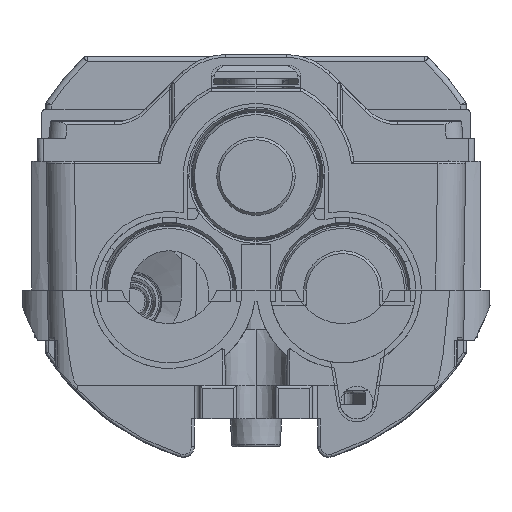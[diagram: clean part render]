
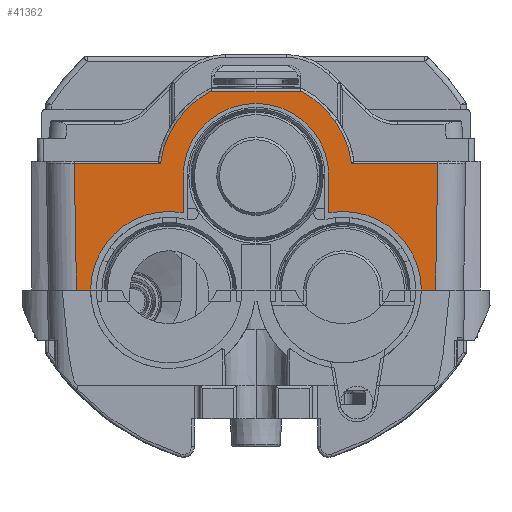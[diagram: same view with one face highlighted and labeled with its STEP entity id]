
A CAD part, left-side view. The second image highlights one B-rep face of the part: STEP entity #41362.
In plain terms, the highlighted planar face has unit normal (-1, 0, 0).
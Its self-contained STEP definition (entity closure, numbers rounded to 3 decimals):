
#605 = CARTESIAN_POINT ( 'NONE',  ( -325.383, 13., 54.3 ) ) ;
#1370 = VECTOR ( 'NONE', #40199, 1000. ) ;
#1553 = VECTOR ( 'NONE', #31791, 1000. ) ;
#1719 = CARTESIAN_POINT ( 'NONE',  ( -325.383, -32.74, 74.782 ) ) ;
#2116 = EDGE_CURVE ( 'NONE', #44450, #36620, #39580, .T. ) ;
#2343 = DIRECTION ( 'NONE',  ( 1., 0., 0. ) ) ;
#2430 = VECTOR ( 'NONE', #20249, 1000. ) ;
#3101 = CARTESIAN_POINT ( 'NONE',  ( -325.383, 37.029, 56.5 ) ) ;
#3967 = DIRECTION ( 'NONE',  ( 0., 1., 0. ) ) ;
#4725 = FACE_OUTER_BOUND ( 'NONE', #35233, .T. ) ;
#4774 = CARTESIAN_POINT ( 'NONE',  ( -325.383, -17.059, 56.5 ) ) ;
#6695 = VERTEX_POINT ( 'NONE', #23852 ) ;
#7025 = EDGE_CURVE ( 'NONE', #39465, #33442, #43488, .T. ) ;
#7088 = CIRCLE ( 'NONE', #35055, 13. ) ;
#7342 = DIRECTION ( 'NONE',  ( -1., 0., 0. ) ) ;
#7726 = LINE ( 'NONE', #9119, #16372 ) ;
#8094 = CARTESIAN_POINT ( 'NONE',  ( -325.383, -29.5, 34. ) ) ;
#8181 = LINE ( 'NONE', #27456, #40161 ) ;
#8544 = EDGE_CURVE ( 'NONE', #33442, #45098, #44655, .T. ) ;
#9119 = CARTESIAN_POINT ( 'NONE',  ( -325.383, 13., 54.3 ) ) ;
#10254 = CARTESIAN_POINT ( 'NONE',  ( -325.383, 15.5, 34. ) ) ;
#10402 = EDGE_CURVE ( 'NONE', #30094, #44450, #16649, .T. ) ;
#10726 = ORIENTED_EDGE ( 'NONE', *, *, #41121, .T. ) ;
#10725 = DIRECTION ( 'NONE',  ( 0., -0.017, -1. ) ) ;
#11138 = CARTESIAN_POINT ( 'NONE',  ( -325.383, 37.029, 34. ) ) ;
#11245 = VERTEX_POINT ( 'NONE', #28863 ) ;
#11400 = AXIS2_PLACEMENT_3D ( 'NONE', #10254, #39360, #14463 ) ;
#13365 = DIRECTION ( 'NONE',  ( 0., 0., -1. ) ) ;
#14138 = ORIENTED_EDGE ( 'NONE', *, *, #30680, .T. ) ;
#14350 = CARTESIAN_POINT ( 'NONE',  ( -325.383, -13., 47.775 ) ) ;
#14463 = DIRECTION ( 'NONE',  ( 0., -1., 0. ) ) ;
#15275 = AXIS2_PLACEMENT_3D ( 'NONE', #17674, #46573, #21896 ) ;
#15301 = VECTOR ( 'NONE', #26987, 1000. ) ;
#16117 = CARTESIAN_POINT ( 'NONE',  ( -325.383, 37.029, 69.5 ) ) ;
#16372 = VECTOR ( 'NONE', #13365, 1000. ) ;
#16649 = LINE ( 'NONE', #1719, #15301 ) ;
#16695 = EDGE_CURVE ( 'NONE', #17748, #27536, #41033, .T. ) ;
#16746 = EDGE_CURVE ( 'NONE', #21973, #52673, #7726, .T. ) ;
#17201 = CARTESIAN_POINT ( 'NONE',  ( -325.383, -32.421, 56.5 ) ) ;
#17283 = EDGE_CURVE ( 'NONE', #42134, #17748, #45435, .T. ) ;
#17549 = EDGE_CURVE ( 'NONE', #11245, #6695, #46070, .T. ) ;
#17674 = CARTESIAN_POINT ( 'NONE',  ( -325.383, 0., 54.3 ) ) ;
#17748 = VERTEX_POINT ( 'NONE', #14350 ) ;
#18999 = EDGE_CURVE ( 'NONE', #28190, #11245, #8181, .T. ) ;
#19035 = VECTOR ( 'NONE', #46197, 1000. ) ;
#19385 = CARTESIAN_POINT ( 'NONE',  ( -325.383, 37.029, 56.5 ) ) ;
#19828 = DIRECTION ( 'NONE',  ( -1., 0., 0. ) ) ;
#20249 = DIRECTION ( 'NONE',  ( 0., 1., 0. ) ) ;
#20924 = CARTESIAN_POINT ( 'NONE',  ( -325.383, 0., 54.3 ) ) ;
#21380 = ORIENTED_EDGE ( 'NONE', *, *, #40510, .T. ) ;
#21896 = DIRECTION ( 'NONE',  ( 0., 0., -1. ) ) ;
#21973 = VERTEX_POINT ( 'NONE', #605 ) ;
#23352 = CIRCLE ( 'NONE', #24661, 17.2 ) ;
#23852 = CARTESIAN_POINT ( 'NONE',  ( -325.383, 29.5, 34. ) ) ;
#23930 = CARTESIAN_POINT ( 'NONE',  ( -325.383, 13., 47.775 ) ) ;
#24645 = AXIS2_PLACEMENT_3D ( 'NONE', #32404, #7342, #36609 ) ;
#24661 = AXIS2_PLACEMENT_3D ( 'NONE', #44521, #19828, #48706 ) ;
#25039 = DIRECTION ( 'NONE',  ( 0., -1., 0. ) ) ;
#26987 = DIRECTION ( 'NONE',  ( 0., -0.017, 1. ) ) ;
#27456 = CARTESIAN_POINT ( 'NONE',  ( -325.383, 32.762, 76.074 ) ) ;
#27536 = VERTEX_POINT ( 'NONE', #36917 ) ;
#27558 = ORIENTED_EDGE ( 'NONE', *, *, #17283, .F. ) ;
#27569 = PLANE ( 'NONE',  #33670 ) ;
#27645 = CARTESIAN_POINT ( 'NONE',  ( -325.383, 37.029, 34. ) ) ;
#27962 = CIRCLE ( 'NONE', #11400, 14. ) ;
#28190 = VERTEX_POINT ( 'NONE', #51528 ) ;
#28374 = CARTESIAN_POINT ( 'NONE',  ( -325.383, -32.028, 34. ) ) ;
#28519 = VECTOR ( 'NONE', #3967, 1000. ) ;
#28851 = ORIENTED_EDGE ( 'NONE', *, *, #51730, .F. ) ;
#28863 = CARTESIAN_POINT ( 'NONE',  ( -325.383, 32.028, 34. ) ) ;
#30094 = VERTEX_POINT ( 'NONE', #28374 ) ;
#30395 = ORIENTED_EDGE ( 'NONE', *, *, #17549, .T. ) ;
#30680 = EDGE_CURVE ( 'NONE', #45098, #28190, #35944, .T. ) ;
#31050 = CARTESIAN_POINT ( 'NONE',  ( -325.383, 8.05, 69.5 ) ) ;
#31451 = ORIENTED_EDGE ( 'NONE', *, *, #18999, .T. ) ;
#31666 = ORIENTED_EDGE ( 'NONE', *, *, #50804, .F. ) ;
#31721 = DIRECTION ( 'NONE',  ( 0., 0., -1. ) ) ;
#31791 = DIRECTION ( 'NONE',  ( 0., -1., 0. ) ) ;
#32358 = ORIENTED_EDGE ( 'NONE', *, *, #2116, .T. ) ;
#32404 = CARTESIAN_POINT ( 'NONE',  ( -325.383, -15.5, 34. ) ) ;
#32480 = VECTOR ( 'NONE', #53564, 1000. ) ;
#33442 = VERTEX_POINT ( 'NONE', #31050 ) ;
#33670 = AXIS2_PLACEMENT_3D ( 'NONE', #48010, #2343, #31721 ) ;
#35055 = AXIS2_PLACEMENT_3D ( 'NONE', #20924, #49808, #25039 ) ;
#35233 = EDGE_LOOP ( 'NONE', ( #40070, #14138, #31451, #30395, #28851, #45394, #31666, #37775, #27558, #10726, #47840, #32358, #21380, #45601 ) ) ;
#35944 = LINE ( 'NONE', #3101, #2430 ) ;
#36609 = DIRECTION ( 'NONE',  ( 0., -1., 0. ) ) ;
#36620 = VERTEX_POINT ( 'NONE', #4774 ) ;
#36917 = CARTESIAN_POINT ( 'NONE',  ( -325.383, -13., 54.3 ) ) ;
#37775 = ORIENTED_EDGE ( 'NONE', *, *, #16695, .F. ) ;
#39360 = DIRECTION ( 'NONE',  ( -1., 0., 0. ) ) ;
#39465 = VERTEX_POINT ( 'NONE', #46465 ) ;
#39580 = LINE ( 'NONE', #19385, #28519 ) ;
#40070 = ORIENTED_EDGE ( 'NONE', *, *, #8544, .T. ) ;
#40161 = VECTOR ( 'NONE', #10725, 1000. ) ;
#40199 = DIRECTION ( 'NONE',  ( 0., -1., 0. ) ) ;
#40510 = EDGE_CURVE ( 'NONE', #36620, #39465, #23352, .T. ) ;
#41033 = LINE ( 'NONE', #50400, #19035 ) ;
#41121 = EDGE_CURVE ( 'NONE', #42134, #30094, #50807, .T. ) ;
#41362 = ADVANCED_FACE ( 'NONE', ( #4725 ), #27569, .F. ) ;
#42134 = VERTEX_POINT ( 'NONE', #8094 ) ;
#43488 = LINE ( 'NONE', #16117, #32480 ) ;
#44450 = VERTEX_POINT ( 'NONE', #17201 ) ;
#44521 = CARTESIAN_POINT ( 'NONE',  ( -325.383, 0., 54.3 ) ) ;
#44655 = CIRCLE ( 'NONE', #15275, 17.2 ) ;
#45098 = VERTEX_POINT ( 'NONE', #52691 ) ;
#45394 = ORIENTED_EDGE ( 'NONE', *, *, #16746, .F. ) ;
#45435 = CIRCLE ( 'NONE', #24645, 14. ) ;
#45601 = ORIENTED_EDGE ( 'NONE', *, *, #7025, .T. ) ;
#46070 = LINE ( 'NONE', #27645, #1553 ) ;
#46197 = DIRECTION ( 'NONE',  ( 0., 0., 1. ) ) ;
#46465 = CARTESIAN_POINT ( 'NONE',  ( -325.383, -8.05, 69.5 ) ) ;
#46573 = DIRECTION ( 'NONE',  ( -1., 0., 0. ) ) ;
#47840 = ORIENTED_EDGE ( 'NONE', *, *, #10402, .T. ) ;
#48010 = CARTESIAN_POINT ( 'NONE',  ( -325.383, 37.029, 76. ) ) ;
#48706 = DIRECTION ( 'NONE',  ( 0., 0., -1. ) ) ;
#49808 = DIRECTION ( 'NONE',  ( -1., 0., 0. ) ) ;
#50400 = CARTESIAN_POINT ( 'NONE',  ( -325.383, -13., 54.3 ) ) ;
#50804 = EDGE_CURVE ( 'NONE', #27536, #21973, #7088, .T. ) ;
#50807 = LINE ( 'NONE', #11138, #1370 ) ;
#51528 = CARTESIAN_POINT ( 'NONE',  ( -325.383, 32.421, 56.5 ) ) ;
#51730 = EDGE_CURVE ( 'NONE', #52673, #6695, #27962, .T. ) ;
#52673 = VERTEX_POINT ( 'NONE', #23930 ) ;
#52691 = CARTESIAN_POINT ( 'NONE',  ( -325.383, 17.059, 56.5 ) ) ;
#53564 = DIRECTION ( 'NONE',  ( 0., 1., 0. ) ) ;
